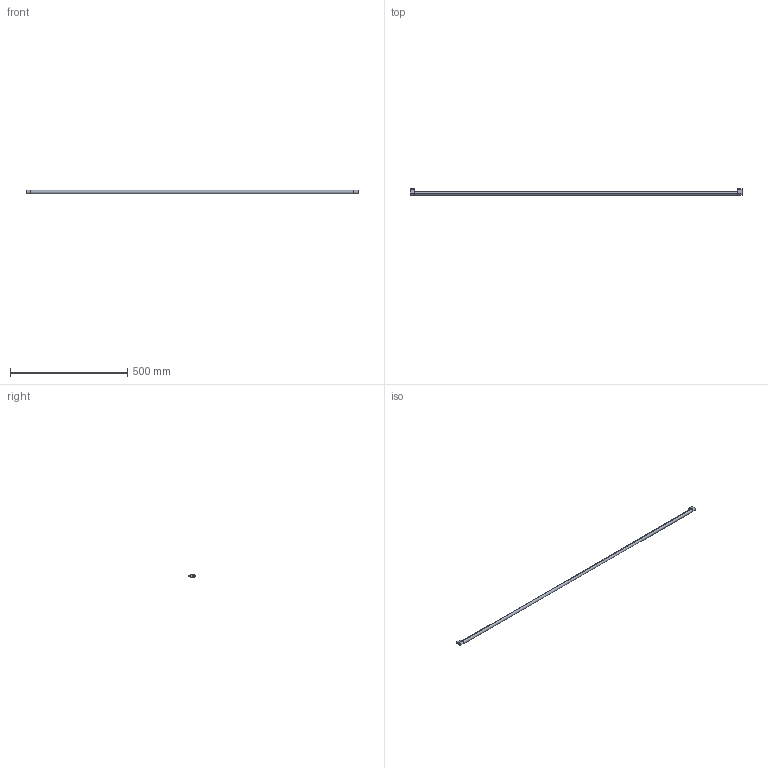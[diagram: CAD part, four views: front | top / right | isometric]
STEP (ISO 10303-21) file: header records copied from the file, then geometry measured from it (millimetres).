
FILE_DESCRIPTION (( 'STEP AP214' ), '1' );
FILE_NAME ('_Synchronisationseinheit Nova Pro KAB1500_S16.step', '2010-07-08T13:58:38', ( 'grass' ), ( '' ), 'SwSTEP 2.0', 'SolidWorks 2010', '' );
FILE_SCHEMA (( 'AUTOMOTIVE_DESIGN' ));
Length unit declared in the file: millimetre
Products named in the file (1): _Synchronisationseinheit Nova Pro KAB1500_S16
Bounding box: 1415 x 26.5 x 14 mm (x, y, z)
Volume: 221509.1 mm3; surface area: 65081.9 mm2
Topology: 3 solids, 3 shells, 36 faces, 78 edges, 52 vertices
Faces by surface type: cylinder 18, plane 18
Entity records: 1050 total; most frequent: DIRECTION 188, CARTESIAN_POINT 167, ORIENTED_EDGE 156, EDGE_CURVE 78, AXIS2_PLACEMENT_3D 73, VERTEX_POINT 52, VECTOR 42, LINE 42
